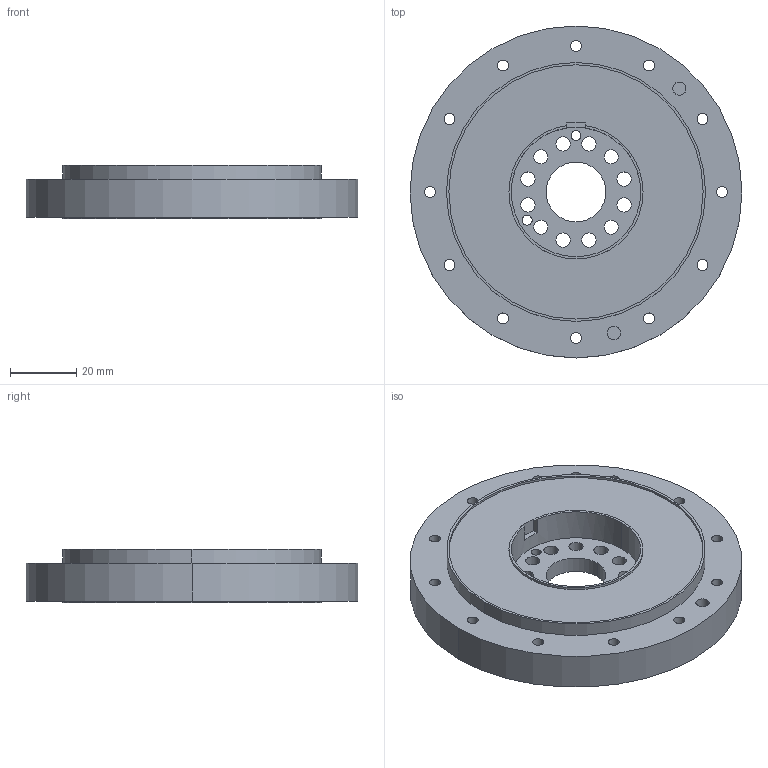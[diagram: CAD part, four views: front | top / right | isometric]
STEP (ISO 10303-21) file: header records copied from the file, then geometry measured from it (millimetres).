
FILE_DESCRIPTION (( 'STEP AP214' ), '1' );
FILE_NAME ('ATSB100-D100.STEP', '2023-11-07T10:25:20', ( '' ), ( '' ), 'SwSTEP 2.0', 'SolidWorks 2021', '' );
FILE_SCHEMA (( 'AUTOMOTIVE_DESIGN' ));
Length unit declared in the file: millimetre
Products named in the file (1): ATSB100-D100
Bounding box: 100 x 100 x 16 mm (x, y, z)
Volume: 90151.8 mm3; surface area: 24114 mm2
Topology: 1 solids, 1 shells, 99 faces, 258 edges, 172 vertices
Faces by surface type: cylinder 82, plane 17
Entity records: 3544 total; most frequent: DIRECTION 624, CARTESIAN_POINT 530, ORIENTED_EDGE 516, AXIS2_PLACEMENT_3D 266, EDGE_CURVE 258, VERTEX_POINT 172, CIRCLE 166, EDGE_LOOP 164
